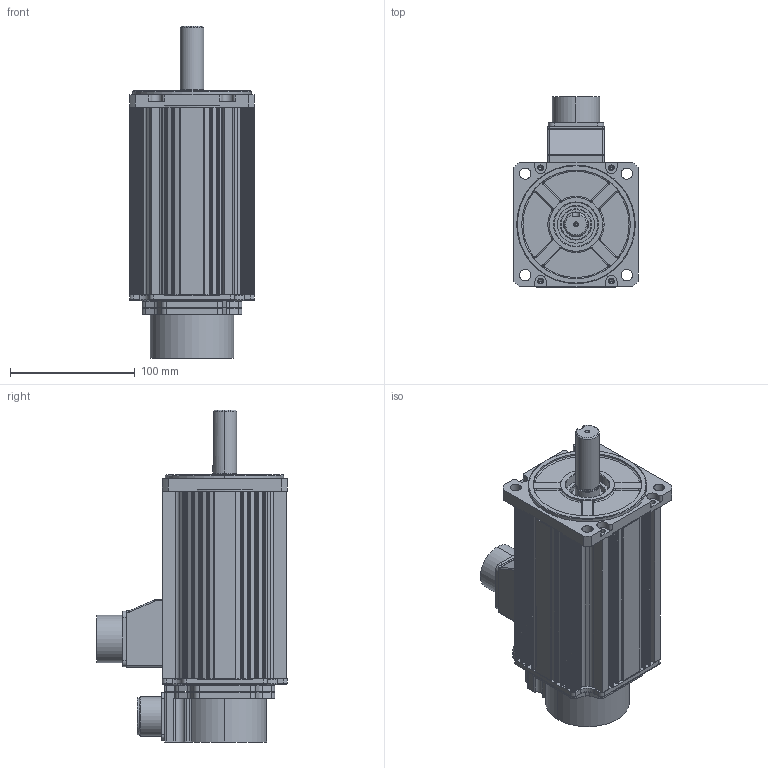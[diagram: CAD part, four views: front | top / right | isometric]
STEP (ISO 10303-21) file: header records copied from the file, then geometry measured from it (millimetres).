
FILE_DESCRIPTION (( 'STEP AP214' ), '1' );
FILE_NAME ('KANS-20D¡à1N2.STEP', '2026-09-12T01:11:48', ( '' ), ( '' ), 'SwSTEP 2.0', 'SolidWorks 2023', '' );
FILE_SCHEMA (( 'AUTOMOTIVE_DESIGN' ));
Length unit declared in the file: millimetre
Products named in the file (10): KANS-20D□1N2; 10060024(ENCODER COVER ADAPTOR,□100,□120); □100 BRACKET_BR; 1006002202 ENCODER COVER; 10050908 CONNECTOR BOX_MS22 or MS24; MS3102A 24_표준; □100-150mm; MS3102A 20-29P; Ø19-KEY6X42; □100 FLANGE
Assembly tree (9 placements, depth 2):
  KANS-20D□1N2
    □100-150mm
    □100 FLANGE
    □100 BRACKET_BR
    10060024(ENCODER COVER ADAPTOR,□100,□120)
    1006002202 ENCODER COVER
    MS3102A 20-29P
    Ø19-KEY6X42
    10050908 CONNECTOR BOX_MS22 or MS24
    MS3102A 24_표준
Bounding box: 100 x 152.42 x 266 mm (x, y, z)
Volume: 487959.2 mm3; surface area: 277908.8 mm2
Topology: 9 solids, 9 shells, 1757 faces, 4844 edges, 3130 vertices
Faces by surface type: cylinder 778, plane 774, torus 74, cone 64, bspline 35, sphere 32
Entity records: 57709 total; most frequent: CARTESIAN_POINT 11539, DIRECTION 9945, ORIENTED_EDGE 9572, EDGE_CURVE 4786, AXIS2_PLACEMENT_3D 3562, VERTEX_POINT 3122, LINE 2821, VECTOR 2821
